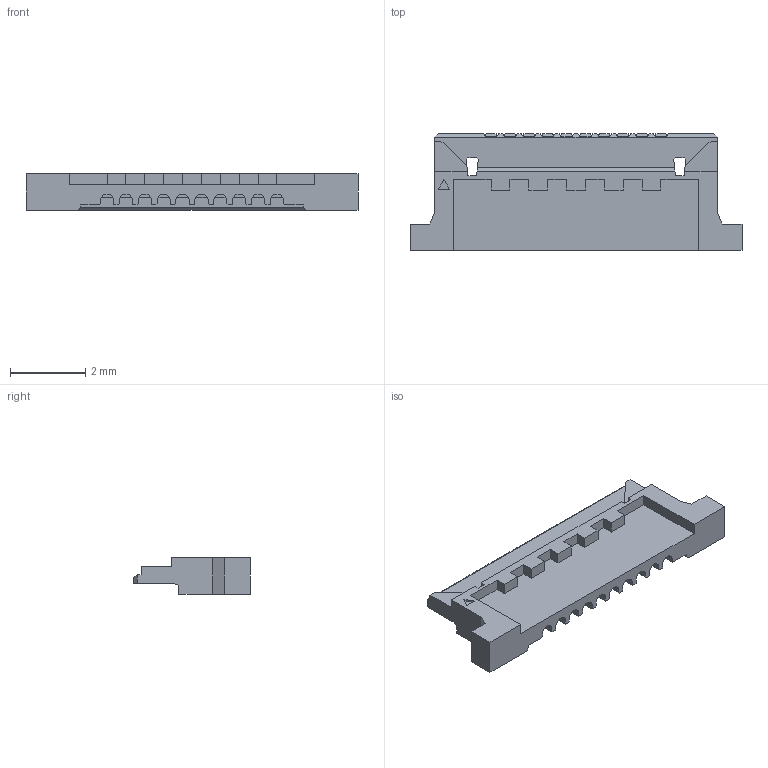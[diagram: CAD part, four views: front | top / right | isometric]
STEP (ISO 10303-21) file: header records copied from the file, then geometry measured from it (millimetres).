
FILE_DESCRIPTION (( 'STEP AP214' ), '1' );
FILE_NAME ('20598-PLUG HSG ASS''Y 10P.STEP', '2015-07-22T06:09:08', ( '' ), ( '' ), 'SwSTEP 2.0', 'SolidWorks 2012', '' );
FILE_SCHEMA (( 'AUTOMOTIVE_DESIGN' ));
Length unit declared in the file: millimetre
Products named in the file (1): 20598-PLUG HSG ASS''Y 10P
Bounding box: 8.8 x 3.1 x 0.98 mm (x, y, z)
Volume: 10.9 mm3; surface area: 77.6 mm2
Topology: 1 solids, 1 shells, 392 faces, 1095 edges, 702 vertices
Faces by surface type: plane 362, cylinder 30
Entity records: 12329 total; most frequent: CARTESIAN_POINT 2250, ORIENTED_EDGE 2190, DIRECTION 1941, EDGE_CURVE 1095, VECTOR 995, LINE 995, VERTEX_POINT 702, AXIS2_PLACEMENT_3D 473
